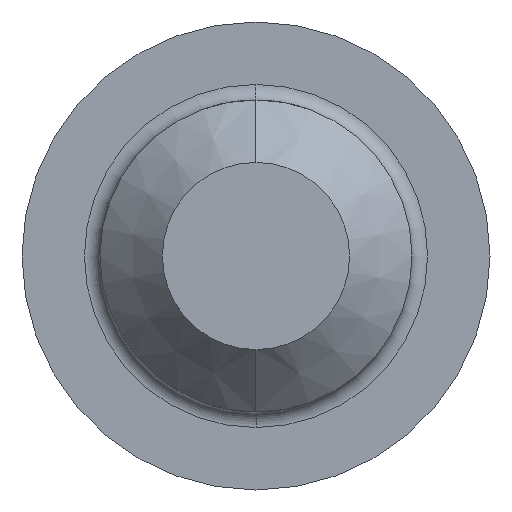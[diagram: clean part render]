
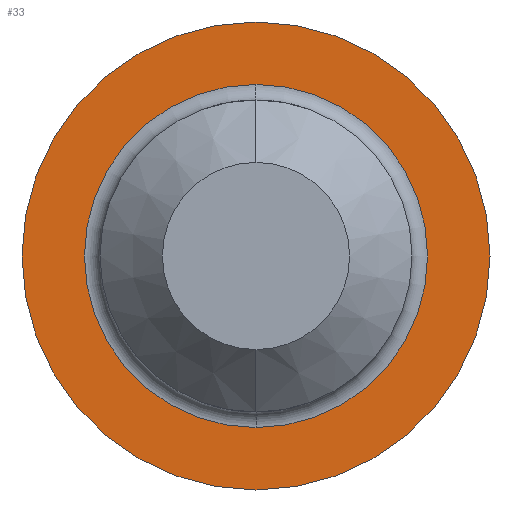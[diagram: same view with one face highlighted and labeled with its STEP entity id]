
A CAD part, left-side view. The second image highlights one B-rep face of the part: STEP entity #33.
In plain terms, the highlighted planar face has unit normal (-1, 0, 0).
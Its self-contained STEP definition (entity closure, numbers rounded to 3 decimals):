
#17 = EDGE_CURVE ( 'NONE', #58, #57, #294, .T. ) ;
#19 = ORIENTED_EDGE ( 'NONE', *, *, #32, .T. ) ;
#22 = ORIENTED_EDGE ( 'NONE', *, *, #122, .T. ) ;
#25 = EDGE_LOOP ( 'NONE', ( #22, #19 ) ) ;
#32 = EDGE_CURVE ( 'NONE', #70, #139, #279, .T. ) ;
#33 = ADVANCED_FACE ( 'NONE', ( #272, #283 ), #274, .F. ) ;
#49 = ORIENTED_EDGE ( 'NONE', *, *, #17, .T. ) ;
#51 = ORIENTED_EDGE ( 'NONE', *, *, #65, .T. ) ;
#53 = EDGE_LOOP ( 'NONE', ( #49, #51 ) ) ;
#57 = VERTEX_POINT ( 'NONE', #227 ) ;
#58 = VERTEX_POINT ( 'NONE', #226 ) ;
#65 = EDGE_CURVE ( 'NONE', #57, #58, #201, .T. ) ;
#70 = VERTEX_POINT ( 'NONE', #187 ) ;
#122 = EDGE_CURVE ( 'NONE', #139, #70, #541, .T. ) ;
#139 = VERTEX_POINT ( 'NONE', #400 ) ;
#187 = CARTESIAN_POINT ( 'NONE',  ( 0., 0., -4.5 ) ) ;
#192 = DIRECTION ( 'NONE',  ( 0., 0., -1. ) ) ;
#200 = CARTESIAN_POINT ( 'NONE',  ( 0., 0., 0. ) ) ;
#201 = CIRCLE ( 'NONE', #228, 3.3 ) ;
#218 = DIRECTION ( 'NONE',  ( 1., 0., 0. ) ) ;
#226 = CARTESIAN_POINT ( 'NONE',  ( 0., 0., -3.3 ) ) ;
#227 = CARTESIAN_POINT ( 'NONE',  ( 0., 0., 3.3 ) ) ;
#228 = AXIS2_PLACEMENT_3D ( 'NONE', #200, #218, #192 ) ;
#262 = DIRECTION ( 'NONE',  ( 0., 0., -1. ) ) ;
#265 = CARTESIAN_POINT ( 'NONE',  ( 0., 4.5, 0. ) ) ;
#267 = DIRECTION ( 'NONE',  ( 0., 0., 1. ) ) ;
#268 = DIRECTION ( 'NONE',  ( -1., 0., 0. ) ) ;
#269 = CARTESIAN_POINT ( 'NONE',  ( 0., 0., 0. ) ) ;
#270 = AXIS2_PLACEMENT_3D ( 'NONE', #269, #268, #267 ) ;
#272 = FACE_BOUND ( 'NONE', #53, .T. ) ;
#273 = AXIS2_PLACEMENT_3D ( 'NONE', #265, #284, #262 ) ;
#274 = PLANE ( 'NONE',  #273 ) ;
#279 = CIRCLE ( 'NONE', #270, 4.5 ) ;
#283 = FACE_OUTER_BOUND ( 'NONE', #25, .T. ) ;
#284 = DIRECTION ( 'NONE',  ( 1., 0., 0. ) ) ;
#287 = DIRECTION ( 'NONE',  ( 0., 0., -1. ) ) ;
#288 = DIRECTION ( 'NONE',  ( 1., 0., 0. ) ) ;
#289 = CARTESIAN_POINT ( 'NONE',  ( 0., 0., 0. ) ) ;
#290 = AXIS2_PLACEMENT_3D ( 'NONE', #289, #288, #287 ) ;
#294 = CIRCLE ( 'NONE', #290, 3.3 ) ;
#400 = CARTESIAN_POINT ( 'NONE',  ( 0., 0., 4.5 ) ) ;
#537 = DIRECTION ( 'NONE',  ( 0., 0., 1. ) ) ;
#538 = DIRECTION ( 'NONE',  ( -1., 0., 0. ) ) ;
#539 = CARTESIAN_POINT ( 'NONE',  ( 0., 0., 0. ) ) ;
#541 = CIRCLE ( 'NONE', #543, 4.5 ) ;
#543 = AXIS2_PLACEMENT_3D ( 'NONE', #539, #538, #537 ) ;
